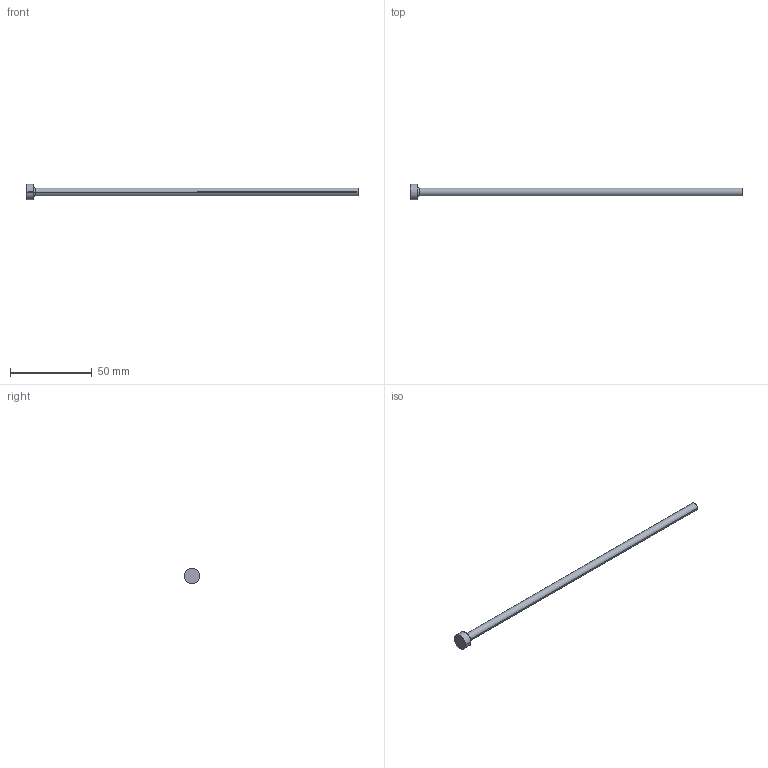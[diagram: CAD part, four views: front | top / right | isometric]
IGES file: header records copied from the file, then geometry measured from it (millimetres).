
Start section: SolidWorks IGES file using analytic representation for surfaces
Global section: file name: C:\Users\Ryan\Documents\PCS\Ejector Pins - Oversized\P13-8 OS-2.igs; native system: SolidWorks 2009; preprocessor: SolidWorks 2009; author: Ryan; date: 140228.090713; units: inch
Bounding box: 203.2 x 9.53 x 9.53 mm (x, y, z)
Surface area: 3272.9 mm2 (no closed solid volume)
Topology: 0 solids, 0 shells, 9 faces, 152 edges, 152 vertices
Faces by surface type: bspline 5, revolution 4
